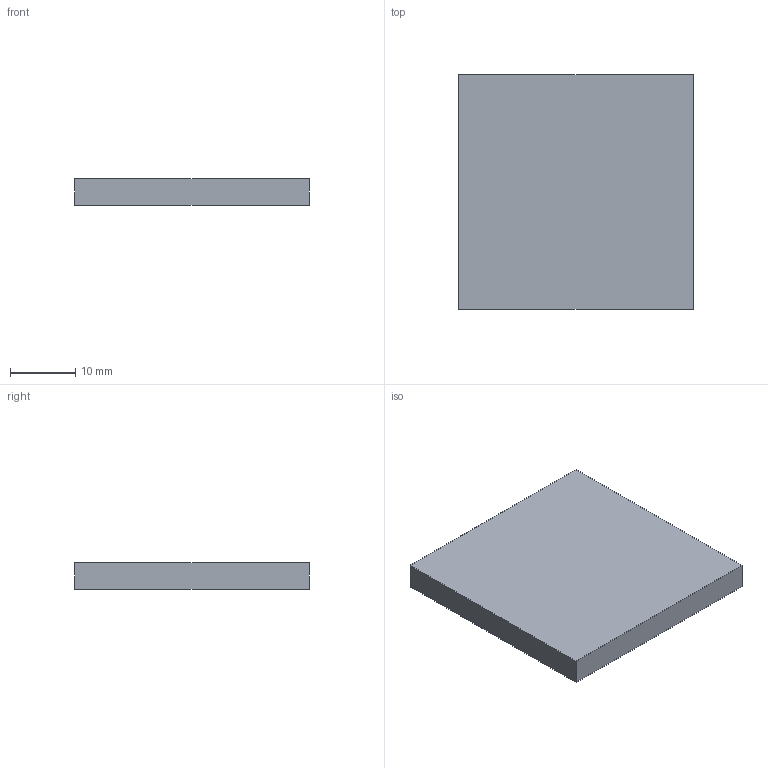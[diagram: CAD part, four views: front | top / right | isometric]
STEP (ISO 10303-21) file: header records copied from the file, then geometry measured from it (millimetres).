
FILE_DESCRIPTION(('Open CASCADE Model'),'2;1');
FILE_NAME('Open CASCADE Shape Model','2026-10-04T02:31:38',('Author'),( 'Open CASCADE'),'Open CASCADE STEP processor 8.0','Open CASCADE 8.0' ,'Unknown');
FILE_SCHEMA(('AUTOMOTIVE_DESIGN { 1 0 10303 214 1 1 1 1 }'));
Length unit declared in the file: millimetre
Products named in the file (1): Open CASCADE STEP translator 8.0 135
Bounding box: 36 x 36 x 4 mm (x, y, z)
Volume: 5184 mm3; surface area: 3168 mm2
Topology: 1 solids, 1 shells, 6 faces, 12 edges, 8 vertices
Faces by surface type: plane 6
Entity records: 322 total; most frequent: CARTESIAN_POINT 51, DIRECTION 50, LINE 36, VECTOR 36, ORIENTED_EDGE 24, PCURVE 24, DEFINITIONAL_REPRESENTATION 24, EDGE_CURVE 12
